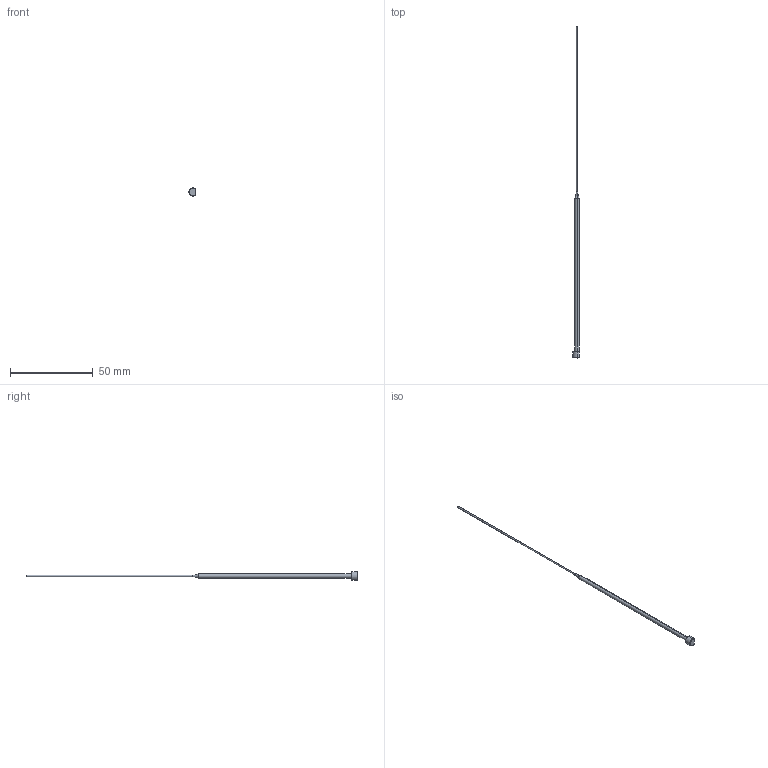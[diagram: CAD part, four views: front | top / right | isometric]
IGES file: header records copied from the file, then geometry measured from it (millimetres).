
Start section: SolidWorks IGES file using analytic representation for surfaces
Global section: file name: C:\Users\365admin\AppData\Local\Temp\InFlowConvert3DWorking\EPJ01X25L200-100-K.igs; native system: SolidWorks 2019; preprocessor: SolidWorks 2019; author: 365admin; date: 220405.110234; units: millimetre
Bounding box: 3.75 x 200 x 5 mm (x, y, z)
Surface area: 1140.2 mm2 (no closed solid volume)
Topology: 0 solids, 0 shells, 22 faces, 177 edges, 177 vertices
Faces by surface type: revolution 13, bspline 9
